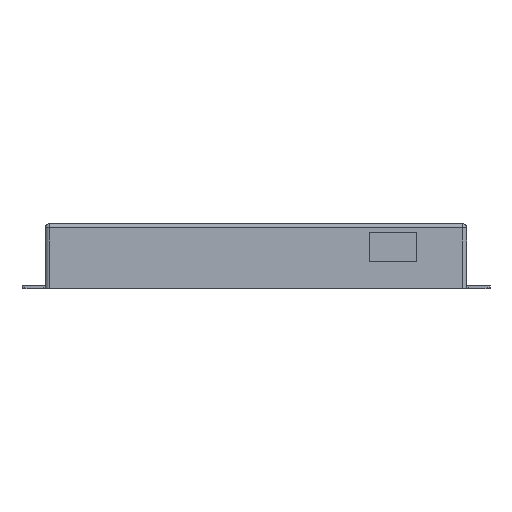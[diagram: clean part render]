
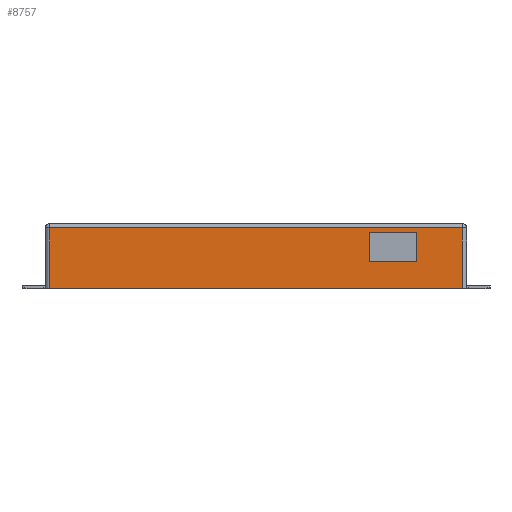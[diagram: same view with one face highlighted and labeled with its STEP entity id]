
A CAD part, left-side view. The second image highlights one B-rep face of the part: STEP entity #8757.
In plain terms, the highlighted planar face has unit normal (-1, 0, 0).
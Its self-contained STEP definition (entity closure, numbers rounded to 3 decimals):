
#1620=DIRECTION('',(0.,1.,0.));
#1621=VECTOR('',#1620,141.5);
#1622=CARTESIAN_POINT('',(-99.,-69.75,-14.598));
#1623=LINE('',#1622,#1621);
#3401=DIRECTION('',(0.,-1.,0.));
#3402=VECTOR('',#3401,141.5);
#3403=CARTESIAN_POINT('',(-99.,71.75,6.202));
#3404=LINE('',#3403,#3402);
#3405=DIRECTION('',(0.,0.,1.));
#3406=VECTOR('',#3405,20.8);
#3407=CARTESIAN_POINT('',(-99.,-69.75,-14.598));
#3408=LINE('',#3407,#3406);
#3409=DIRECTION('',(0.,0.,1.));
#3410=VECTOR('',#3409,20.8);
#3411=CARTESIAN_POINT('',(-99.,71.75,-14.598));
#3412=LINE('',#3411,#3410);
#3413=DIRECTION('',(0.,0.,-1.));
#3414=VECTOR('',#3413,10.2);
#3415=CARTESIAN_POINT('',(-99.,-37.986,4.7));
#3416=LINE('',#3415,#3414);
#3417=DIRECTION('',(0.,-1.,0.));
#3418=VECTOR('',#3417,16.2);
#3419=CARTESIAN_POINT('',(-99.,-37.986,-5.5));
#3420=LINE('',#3419,#3418);
#3421=DIRECTION('',(0.,0.,1.));
#3422=VECTOR('',#3421,10.2);
#3423=CARTESIAN_POINT('',(-99.,-54.186,-5.5));
#3424=LINE('',#3423,#3422);
#3425=DIRECTION('',(0.,1.,0.));
#3426=VECTOR('',#3425,16.2);
#3427=CARTESIAN_POINT('',(-99.,-54.186,4.7));
#3428=LINE('',#3427,#3426);
#4857=CARTESIAN_POINT('',(-99.,71.75,-14.598));
#4859=VERTEX_POINT('',#4857);
#4866=CARTESIAN_POINT('',(-99.,-69.75,-14.598));
#4868=VERTEX_POINT('',#4866);
#4869=CARTESIAN_POINT('',(-99.,-69.75,6.202));
#4871=VERTEX_POINT('',#4869);
#4891=CARTESIAN_POINT('',(-99.,71.75,6.202));
#4892=VERTEX_POINT('',#4891);
#6045=CARTESIAN_POINT('',(-99.,-37.986,4.7));
#6046=CARTESIAN_POINT('',(-99.,-37.986,-5.5));
#6047=VERTEX_POINT('',#6045);
#6048=VERTEX_POINT('',#6046);
#6049=CARTESIAN_POINT('',(-99.,-54.186,-5.5));
#6050=VERTEX_POINT('',#6049);
#6051=CARTESIAN_POINT('',(-99.,-54.186,4.7));
#6052=VERTEX_POINT('',#6051);
#8734=CARTESIAN_POINT('',(-99.,73.25,6.702));
#8735=DIRECTION('',(-1.,0.,0.));
#8736=DIRECTION('',(0.,-1.,0.));
#8737=AXIS2_PLACEMENT_3D('',#8734,#8735,#8736);
#8738=PLANE('',#8737);
#8740=ORIENTED_EDGE('',*,*,#8739,.T.);
#8741=ORIENTED_EDGE('',*,*,#8729,.F.);
#8742=ORIENTED_EDGE('',*,*,#7352,.T.);
#8744=ORIENTED_EDGE('',*,*,#8743,.T.);
#8745=EDGE_LOOP('',(#8740,#8741,#8742,#8744));
#8746=FACE_OUTER_BOUND('',#8745,.F.);
#8748=ORIENTED_EDGE('',*,*,#8747,.T.);
#8750=ORIENTED_EDGE('',*,*,#8749,.T.);
#8752=ORIENTED_EDGE('',*,*,#8751,.T.);
#8754=ORIENTED_EDGE('',*,*,#8753,.T.);
#8755=EDGE_LOOP('',(#8748,#8750,#8752,#8754));
#8756=FACE_BOUND('',#8755,.F.);
#7352=EDGE_CURVE('',#4868,#4859,#1623,.T.);
#8729=EDGE_CURVE('',#4868,#4871,#3408,.T.);
#8739=EDGE_CURVE('',#4892,#4871,#3404,.T.);
#8743=EDGE_CURVE('',#4859,#4892,#3412,.T.);
#8747=EDGE_CURVE('',#6047,#6048,#3416,.T.);
#8749=EDGE_CURVE('',#6048,#6050,#3420,.T.);
#8751=EDGE_CURVE('',#6050,#6052,#3424,.T.);
#8753=EDGE_CURVE('',#6052,#6047,#3428,.T.);
#8757=ADVANCED_FACE('',(#8746,#8756),#8738,.T.);
